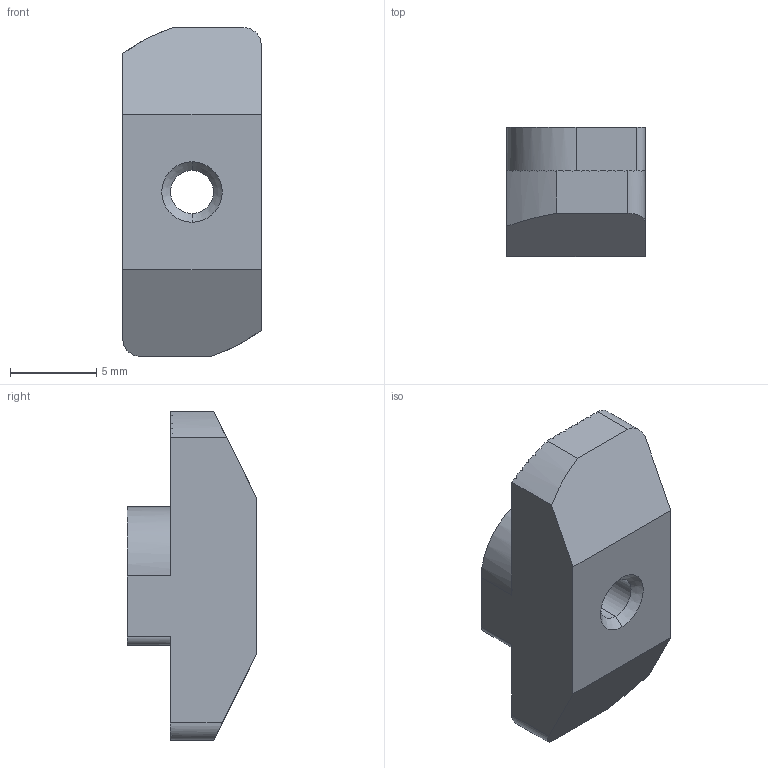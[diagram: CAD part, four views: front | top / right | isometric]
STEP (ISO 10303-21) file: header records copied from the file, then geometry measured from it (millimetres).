
FILE_DESCRIPTION (( 'STEP AP203' ), '1' );
FILE_NAME ('LIMA-RN3-84040.STEP', '2018-03-15T12:22:59', ( '' ), ( '' ), 'SwSTEP 2.0', 'SolidWorks 2013', '' );
FILE_SCHEMA (( 'CONFIG_CONTROL_DESIGN' ));
Length unit declared in the file: millimetre
Products named in the file (1): LIMA-RN3-84040
Bounding box: 8 x 7.5 x 19 mm (x, y, z)
Volume: 746.5 mm3; surface area: 632.2 mm2
Topology: 1 solids, 1 shells, 122 faces, 356 edges, 236 vertices
Faces by surface type: plane 108, cylinder 10, cone 4
Entity records: 4082 total; most frequent: CARTESIAN_POINT 931, ORIENTED_EDGE 712, DIRECTION 583, EDGE_CURVE 356, VERTEX_POINT 236, VECTOR 231, LINE 231, AXIS2_PLACEMENT_3D 176
